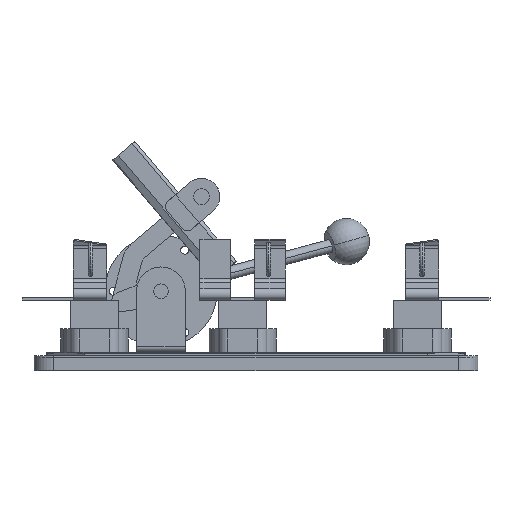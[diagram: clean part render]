
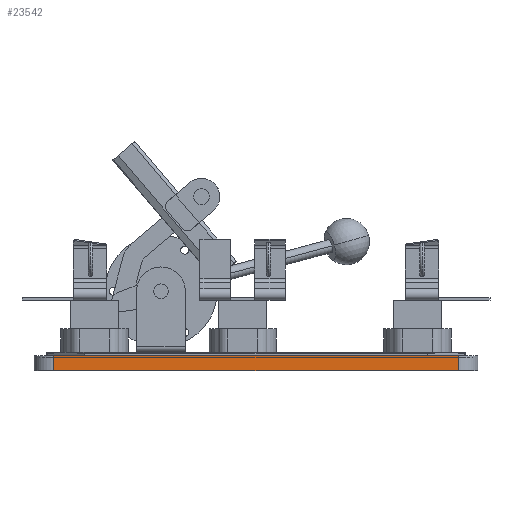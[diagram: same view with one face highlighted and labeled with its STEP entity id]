
A CAD part, left-side view. The second image highlights one B-rep face of the part: STEP entity #23542.
In plain terms, the highlighted planar face has unit normal (-1, 0, 0).
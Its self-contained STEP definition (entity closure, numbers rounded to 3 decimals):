
#2012 = VECTOR ( 'NONE', #13951, 1000. ) ;
#2256 = ORIENTED_EDGE ( 'NONE', *, *, #16250, .T. ) ;
#2600 = ORIENTED_EDGE ( 'NONE', *, *, #45890, .T. ) ;
#2707 = CARTESIAN_POINT ( 'NONE',  ( -132., -243.8, -15. ) ) ;
#2959 = LINE ( 'NONE', #20477, #39000 ) ;
#3769 = DIRECTION ( 'NONE',  ( 0., -1., 0. ) ) ;
#4628 = LINE ( 'NONE', #7481, #25294 ) ;
#7391 = AXIS2_PLACEMENT_3D ( 'NONE', #14840, #7444, #3769 ) ;
#7444 = DIRECTION ( 'NONE',  ( -1., 0., 0. ) ) ;
#7481 = CARTESIAN_POINT ( 'NONE',  ( -132., 87.8, -15. ) ) ;
#8586 = VERTEX_POINT ( 'NONE', #46685 ) ;
#10508 = LINE ( 'NONE', #47397, #25291 ) ;
#10762 = DIRECTION ( 'NONE',  ( 0., 0., -1. ) ) ;
#11642 = EDGE_CURVE ( 'NONE', #28361, #8586, #4628, .T. ) ;
#13951 = DIRECTION ( 'NONE',  ( 0., -1., 0. ) ) ;
#14840 = CARTESIAN_POINT ( 'NONE',  ( -132., 104., -15. ) ) ;
#16250 = EDGE_CURVE ( 'NONE', #39493, #27240, #10508, .T. ) ;
#20477 = CARTESIAN_POINT ( 'NONE',  ( -132., 104., -3. ) ) ;
#23542 = ADVANCED_FACE ( 'NONE', ( #45548 ), #33515, .T. ) ;
#25291 = VECTOR ( 'NONE', #46735, 1000. ) ;
#25294 = VECTOR ( 'NONE', #10762, 1000. ) ;
#25900 = ORIENTED_EDGE ( 'NONE', *, *, #34442, .F. ) ;
#27240 = VERTEX_POINT ( 'NONE', #45847 ) ;
#28361 = VERTEX_POINT ( 'NONE', #34404 ) ;
#28979 = CARTESIAN_POINT ( 'NONE',  ( -132., 104., -15. ) ) ;
#31748 = DIRECTION ( 'NONE',  ( 0., -1., 0. ) ) ;
#33515 = PLANE ( 'NONE',  #7391 ) ;
#34404 = CARTESIAN_POINT ( 'NONE',  ( -132., 87.8, -3. ) ) ;
#34442 = EDGE_CURVE ( 'NONE', #28361, #27240, #2959, .T. ) ;
#39000 = VECTOR ( 'NONE', #31748, 1000. ) ;
#39493 = VERTEX_POINT ( 'NONE', #2707 ) ;
#41524 = LINE ( 'NONE', #28979, #2012 ) ;
#42759 = EDGE_LOOP ( 'NONE', ( #25900, #47813, #2600, #2256 ) ) ;
#45548 = FACE_OUTER_BOUND ( 'NONE', #42759, .T. ) ;
#45847 = CARTESIAN_POINT ( 'NONE',  ( -132., -243.8, -3. ) ) ;
#45890 = EDGE_CURVE ( 'NONE', #8586, #39493, #41524, .T. ) ;
#46685 = CARTESIAN_POINT ( 'NONE',  ( -132., 87.8, -15. ) ) ;
#46735 = DIRECTION ( 'NONE',  ( 0., 0., 1. ) ) ;
#47397 = CARTESIAN_POINT ( 'NONE',  ( -132., -243.8, -15. ) ) ;
#47813 = ORIENTED_EDGE ( 'NONE', *, *, #11642, .T. ) ;
